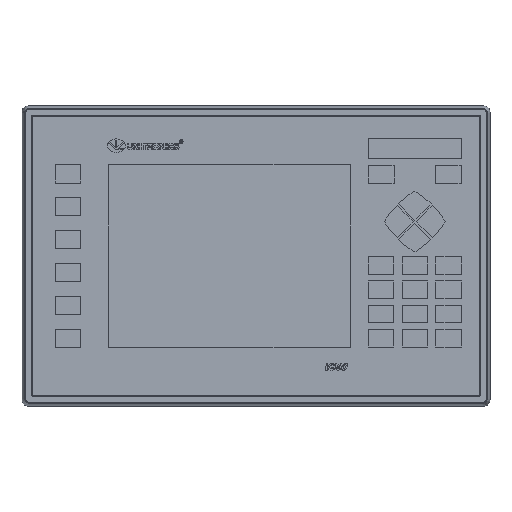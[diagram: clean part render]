
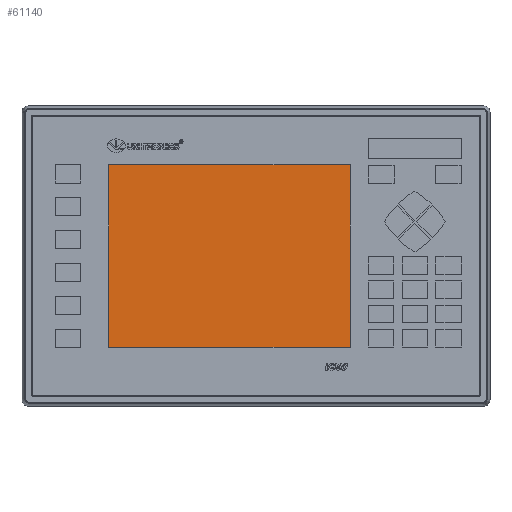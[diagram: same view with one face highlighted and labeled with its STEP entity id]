
A CAD part, top view. The second image highlights one B-rep face of the part: STEP entity #61140.
In plain terms, the highlighted planar face has unit normal (0, 0, 1).
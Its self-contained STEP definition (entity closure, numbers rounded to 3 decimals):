
#36223 = DIRECTION ( 'NONE',  ( 1., 0., 0. ) ) ;
#36224 = VECTOR ( 'NONE', #36223, 1000. ) ;
#36225 = CARTESIAN_POINT ( 'NONE',  ( 45.979, -44.547, -0.3 ) ) ;
#36226 = LINE ( 'NONE', #36225, #36224 ) ;
#36265 = PLANE ( 'NONE',  #36359 ) ;
#36280 = FACE_OUTER_BOUND ( 'NONE', #61141, .T. ) ;
#36314 = DIRECTION ( 'NONE',  ( -1., 0., 0. ) ) ;
#36316 = VECTOR ( 'NONE', #36314, 1000. ) ;
#36322 = DIRECTION ( 'NONE',  ( 0., 1., 0. ) ) ;
#36324 = VECTOR ( 'NONE', #36322, 1000. ) ;
#36330 = DIRECTION ( 'NONE',  ( -1., 0., 0. ) ) ;
#36332 = DIRECTION ( 'NONE',  ( 0., 0., -1. ) ) ;
#36333 = CARTESIAN_POINT ( 'NONE',  ( 102.024, -61.026, -0.3 ) ) ;
#36337 = CARTESIAN_POINT ( 'NONE',  ( 45.979, 44.459, -0.3 ) ) ;
#36338 = LINE ( 'NONE', #36337, #36324 ) ;
#36341 = CARTESIAN_POINT ( 'NONE',  ( -71.813, 44.459, -0.3 ) ) ;
#36342 = CARTESIAN_POINT ( 'NONE',  ( -71.813, 44.459, -0.3 ) ) ;
#36343 = LINE ( 'NONE', #36342, #36316 ) ;
#36351 = CARTESIAN_POINT ( 'NONE',  ( 45.979, 44.459, -0.3 ) ) ;
#36359 = AXIS2_PLACEMENT_3D ( 'NONE', #36333, #36332, #36330 ) ;
#36407 = CARTESIAN_POINT ( 'NONE',  ( 45.979, -44.547, -0.3 ) ) ;
#36409 = CARTESIAN_POINT ( 'NONE',  ( -71.813, -44.547, -0.3 ) ) ;
#36420 = DIRECTION ( 'NONE',  ( 0., -1., 0. ) ) ;
#36422 = VECTOR ( 'NONE', #36420, 1000. ) ;
#36423 = CARTESIAN_POINT ( 'NONE',  ( -71.813, -44.547, -0.3 ) ) ;
#36424 = LINE ( 'NONE', #36423, #36422 ) ;
#61090 = ORIENTED_EDGE ( 'NONE', *, *, #61110, .T. ) ;
#61103 = ORIENTED_EDGE ( 'NONE', *, *, #61147, .T. ) ;
#61110 = EDGE_CURVE ( 'NONE', #61152, #61153, #36226, .T. ) ;
#61139 = ORIENTED_EDGE ( 'NONE', *, *, #61148, .T. ) ;
#61140 = ADVANCED_FACE ( 'NONE', ( #36280 ), #36265, .F. ) ;
#61141 = EDGE_LOOP ( 'NONE', ( #61090, #61146, #61103, #61139 ) ) ;
#61142 = EDGE_CURVE ( 'NONE', #61153, #61144, #36338, .T. ) ;
#61144 = VERTEX_POINT ( 'NONE', #36351 ) ;
#61145 = VERTEX_POINT ( 'NONE', #36341 ) ;
#61146 = ORIENTED_EDGE ( 'NONE', *, *, #61142, .T. ) ;
#61147 = EDGE_CURVE ( 'NONE', #61144, #61145, #36343, .T. ) ;
#61148 = EDGE_CURVE ( 'NONE', #61145, #61152, #36424, .T. ) ;
#61152 = VERTEX_POINT ( 'NONE', #36409 ) ;
#61153 = VERTEX_POINT ( 'NONE', #36407 ) ;
